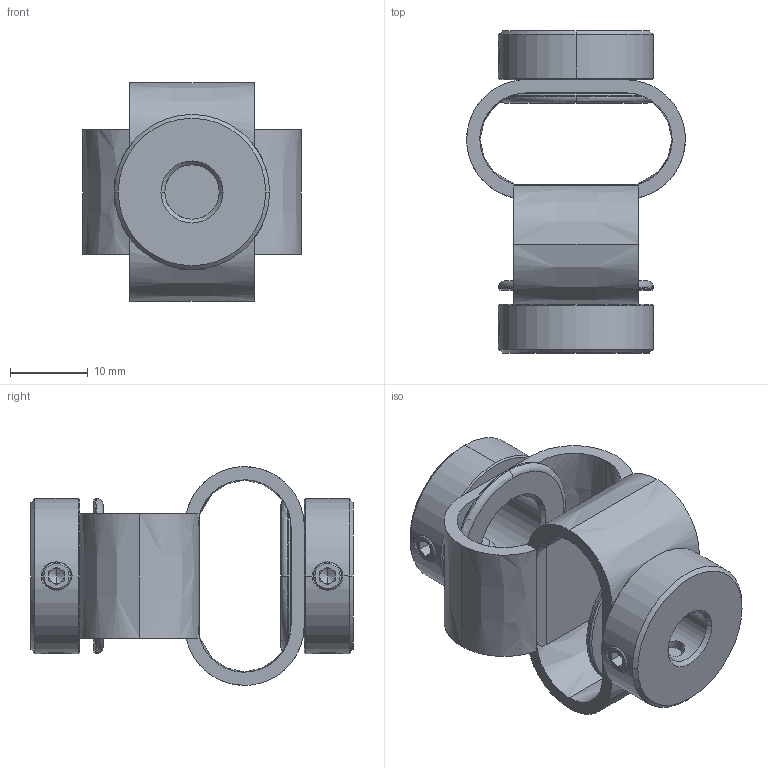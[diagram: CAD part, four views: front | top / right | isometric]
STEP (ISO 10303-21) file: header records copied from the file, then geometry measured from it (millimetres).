
FILE_DESCRIPTION (( 'STEP AP203' ), '1' );
FILE_NAME ('LS-D-D27L40-7-11.STEP', '2021-10-28T06:38:03', ( '' ), ( '' ), 'SwSTEP 2.0', 'SolidWorks 2018', '' );
FILE_SCHEMA (( 'CONFIG_CONTROL_DESIGN' ));
Length unit declared in the file: millimetre
Products named in the file (1): LS-D-D27L40-7-11
Bounding box: 28.2 x 41.54 x 28.2 mm (x, y, z)
Volume: 6644.2 mm3; surface area: 6694.3 mm2
Topology: 1 solids, 1 shells, 214 faces, 544 edges, 336 vertices
Faces by surface type: plane 86, cone 74, cylinder 34, bspline 16, torus 4
Entity records: 8395 total; most frequent: CARTESIAN_POINT 3331, ORIENTED_EDGE 1072, DIRECTION 990, EDGE_CURVE 536, AXIS2_PLACEMENT_3D 389, VERTEX_POINT 336, EDGE_LOOP 242, FACE_OUTER_BOUND 214
